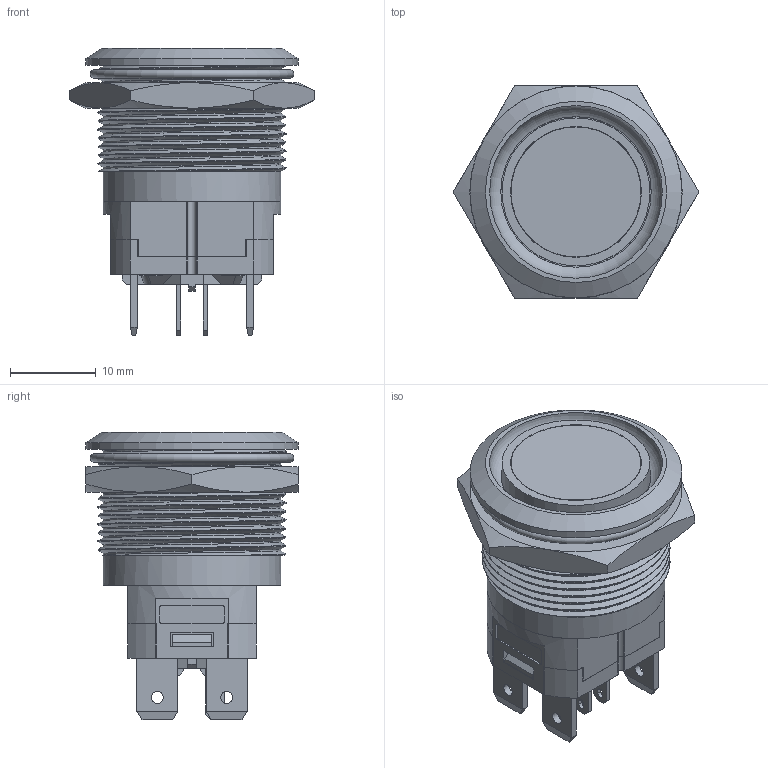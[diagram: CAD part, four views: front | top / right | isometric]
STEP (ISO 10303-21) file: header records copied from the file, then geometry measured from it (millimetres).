
FILE_DESCRIPTION(/* description */ (''),/* implementation_level */ '2;1');
FILE_NAME(/* name */ 'J22_C_x_t.stp',/* time_stamp */ '2022-10-26T10:01:05+08:00',/* author */ (''),/* organization */ (''),/* preprocessor_version */ 'ST-DEVELOPER v11',/* originating_system */ 'SIEMENS UGS NX 6.0',/* authorisation */ '');
FILE_SCHEMA (('CONFIG_CONTROL_DESIGN'));
Length unit declared in the file: millimetre
Products named in the file (11): solid_id121_x_t; solid_id109_x_t; solid_id97_x_t; solid_id92_x_t; solid_id81_x_t; solid_id54_x_t; solid_id21_x_t; solid_id16_x_t; solid_id11_x_t; solid_id6_x_t; J22_C_x_t
Assembly tree (14 placements, depth 2):
  J22_C_x_t
    solid_id6_x_t
    solid_id11_x_t
    solid_id16_x_t
    solid_id21_x_t
    solid_id54_x_t
    solid_id81_x_t  x4
    solid_id92_x_t
    solid_id97_x_t
    solid_id109_x_t  x2
    solid_id121_x_t
Bounding box: 28.7 x 24.85 x 33.6 mm (x, y, z)
Volume: 4939.2 mm3; surface area: 10362.9 mm2
Topology: 14 solids, 14 shells, 905 faces, 2726 edges, 1775 vertices
Faces by surface type: plane 593, cylinder 175, sphere 90, extrusion 26, cone 13, torus 4, bspline 4
Full cylindrical faces by diameter (mm): 1.4 x4, 11.442 x1, 12.86 x1, 13 x2, 15.2 x1, 15.3 x1, 17.3 x1, 17.6 x1, 19.8 x1, 20.2 x1, 20.8 x13, 24.8 x1
Entity records: 34975 total; most frequent: CARTESIAN_POINT 11994, ORIENTED_EDGE 4674, DIRECTION 4255, EDGE_CURVE 2337, VECTOR 1739, LINE 1713, VERTEX_POINT 1561, AXIS2_PLACEMENT_3D 1258
